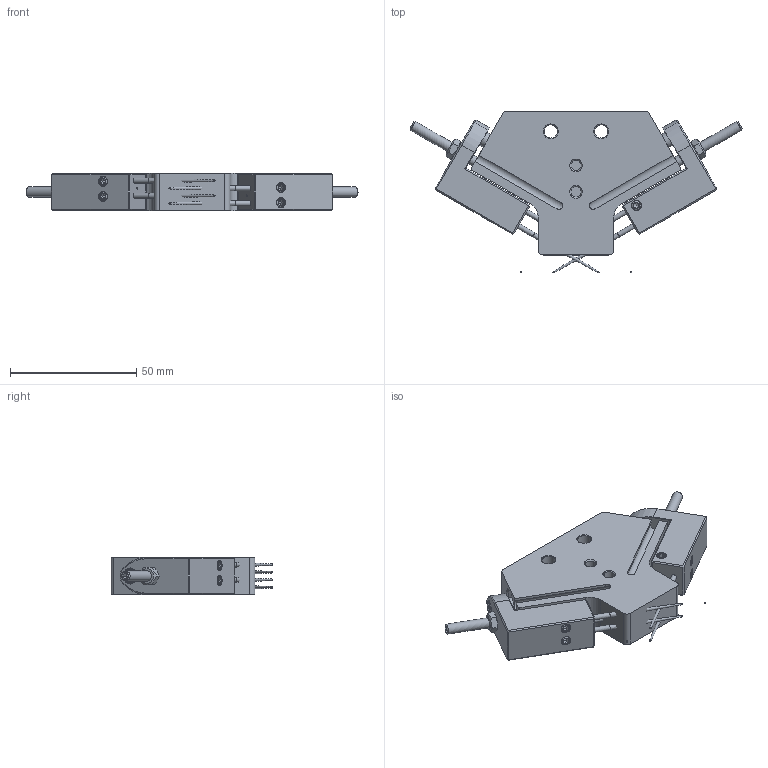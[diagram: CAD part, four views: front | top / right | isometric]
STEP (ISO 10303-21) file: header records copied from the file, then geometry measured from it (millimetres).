
FILE_DESCRIPTION(/* description */ ('NHL-7'),/* implementation_level */ '2;1');
FILE_NAME(/* name */ 'NHL-7.stp',/* time_stamp */ '2026-09-05T12:27:24+02:00',/* author */ ('Jensen'),/* organization */ (''),/* preprocessor_version */ 'ST-DEVELOPER v20.1',/* originating_system */ 'Autodesk Inventor 2026',/* authorisation */ '');
FILE_SCHEMA (('AUTOMOTIVE_DESIGN { 1 0 10303 214 3 1 1 }'));
Length unit declared in the file: millimetre
Products named in the file (4): NHL-7; 100-162-512; NHL-7_piston_rod; NHL-7_needle_holder
Assembly tree (5 placements, depth 2):
  NHL-7
    100-162-512
    NHL-7_piston_rod  x2
    NHL-7_needle_holder  x2
Bounding box: 131.65 x 64.06 x 15 mm (x, y, z)
Volume: 59723 mm3; surface area: 22677.4 mm2
Topology: 7 solids, 7 shells, 312 faces, 736 edges, 465 vertices
Faces by surface type: plane 178, cylinder 62, cone 62, bspline 6, torus 4
Full cylindrical faces by diameter (mm): 2 x6, 2.459 x2, 3 x2, 3.2 x2, 3.3 x2, 4 x4, 4.134 x3, 4.2 x1, 5.3 x2, 5.5 x2, 5.8 x2, 6 x4, 9.8 x2, 10 x2, 13 x4, 13.6 x2
Entity records: 5879 total; most frequent: CARTESIAN_POINT 1203, DIRECTION 919, ORIENTED_EDGE 868, EDGE_CURVE 434, AXIS2_PLACEMENT_3D 340, VERTEX_POINT 280, LINE 239, VECTOR 239
